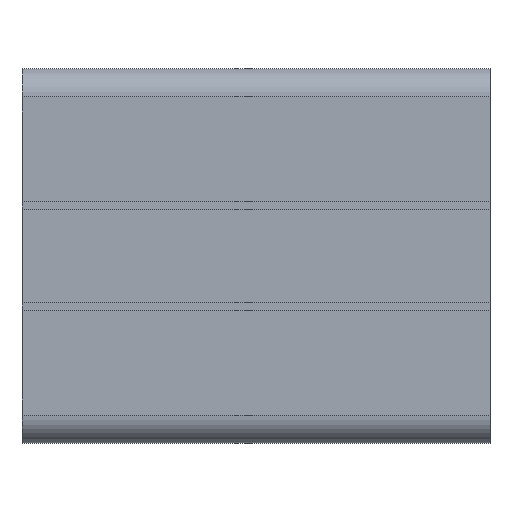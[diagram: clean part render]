
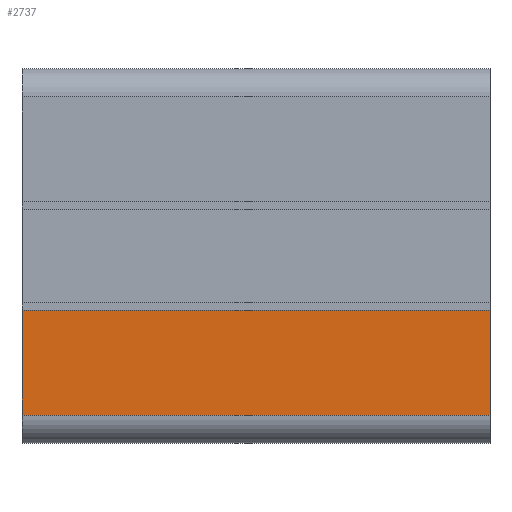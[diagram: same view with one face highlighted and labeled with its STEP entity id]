
A CAD part, front view. The second image highlights one B-rep face of the part: STEP entity #2737.
In plain terms, the highlighted planar face has unit normal (0, -1, 0).
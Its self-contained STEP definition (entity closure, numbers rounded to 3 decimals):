
#1689=VERTEX_POINT('',#4153);
#2119=VERTEX_POINT('',#4622);
#2431=EDGE_CURVE('',#1689,#3587,#4965,.T.);
#2525=EDGE_CURVE('',#2889,#2119,#5068,.T.);
#2737=ADVANCED_FACE('',(#5300),#5301,.T.);
#2889=VERTEX_POINT('',#5462);
#2997=EDGE_CURVE('',#3587,#2889,#5576,.T.);
#3073=EDGE_CURVE('',#1689,#2119,#5657,.T.);
#3587=VERTEX_POINT('',#6219);
#4153=CARTESIAN_POINT('',(0.0,-40.0,-5.8));
#4622=CARTESIAN_POINT('',(50.0,-40.0,-5.8));
#4965=LINE('',#8146,#8147);
#5068=LINE('',#8298,#8299);
#5300=FACE_OUTER_BOUND('',#8632,.T.);
#5301=PLANE('',#8633);
#5462=CARTESIAN_POINT('',(50.0,-40.0,-17.0));
#5576=LINE('',#9052,#9053);
#5657=LINE('',#9175,#9176);
#6219=CARTESIAN_POINT('',(0.0,-40.0,-17.0));
#8146=CARTESIAN_POINT('',(0.0,-40.0,-5.8));
#8147=VECTOR('',#11420,1.0);
#8298=CARTESIAN_POINT('',(50.0,-40.0,-5.8));
#8299=VECTOR('',#11519,1.0);
#8632=EDGE_LOOP('',(#11739,#11740,#11741,#11742));
#8633=AXIS2_PLACEMENT_3D('',#11743,#11744,#11745);
#9052=CARTESIAN_POINT('',(0.0,-40.0,-17.0));
#9053=VECTOR('',#11950,1.0);
#9175=CARTESIAN_POINT('',(0.0,-40.0,-5.8));
#9176=VECTOR('',#12011,1.0);
#11420=DIRECTION('',(0.0,0.0,-1.0));
#11519=DIRECTION('',(0.0,0.0,1.0));
#11739=ORIENTED_EDGE('',*,*,#2525,.T.);
#11740=ORIENTED_EDGE('',*,*,#3073,.F.);
#11741=ORIENTED_EDGE('',*,*,#2431,.T.);
#11742=ORIENTED_EDGE('',*,*,#2997,.T.);
#11743=CARTESIAN_POINT('',(0.0,-40.0,-17.0));
#11744=DIRECTION('',(0.0,-1.0,0.0));
#11745=DIRECTION('',(0.0,0.0,-1.0));
#11950=DIRECTION('',(1.0,0.0,0.0));
#12011=DIRECTION('',(1.0,0.0,0.0));
